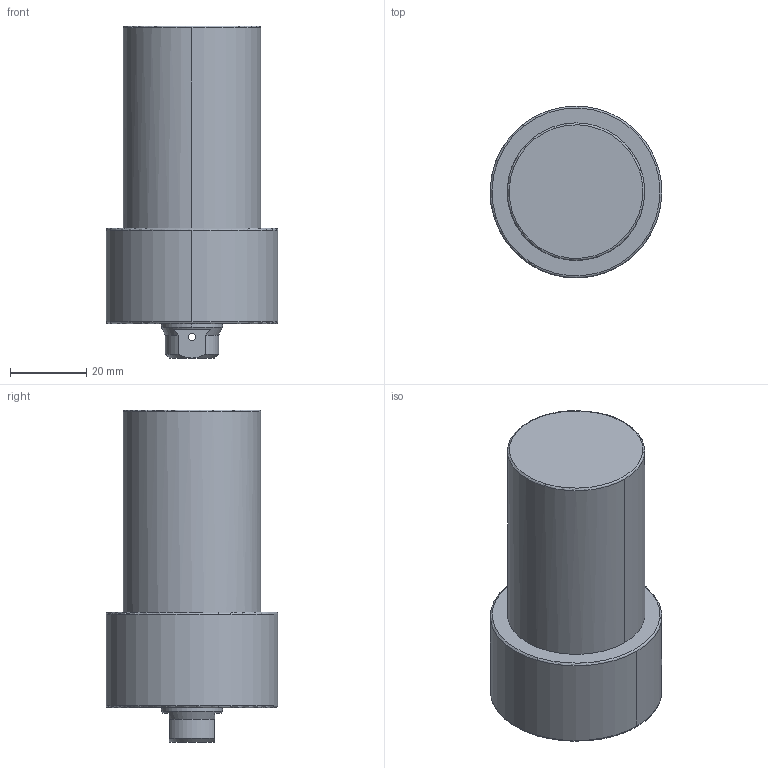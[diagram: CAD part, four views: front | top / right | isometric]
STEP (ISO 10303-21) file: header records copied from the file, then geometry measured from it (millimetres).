
FILE_DESCRIPTION((' '),'2;1');
FILE_NAME( 'TLLU-036GB-045.STEP.stp', '2025-10-24T16:37:05', (' '), ('--- Datakit www.datakit.com---'), ' Datakit CrossCadWare V2024.1 Dec 21 2023', 'Mastercam 2025', ' ');
FILE_SCHEMA(('AUTOMOTIVE_DESIGN { 1 0 10303 214 1 1 1 1 }'));
Length unit declared in the file: millimetre
Products named in the file (1): TLLU-036GB-045
Bounding box: 44.99 x 45 x 87 mm (x, y, z)
Volume: 94091.8 mm3; surface area: 13858.5 mm2
Topology: 1 solids, 1 shells, 66 faces, 192 edges, 125 vertices
Faces by surface type: cylinder 26, cone 24, plane 10, torus 6
Entity records: 2820 total; most frequent: CARTESIAN_POINT 1010, DIRECTION 412, ORIENTED_EDGE 364, EDGE_CURVE 182, AXIS2_PLACEMENT_3D 179, VERTEX_POINT 125, CIRCLE 112, EDGE_LOOP 77
